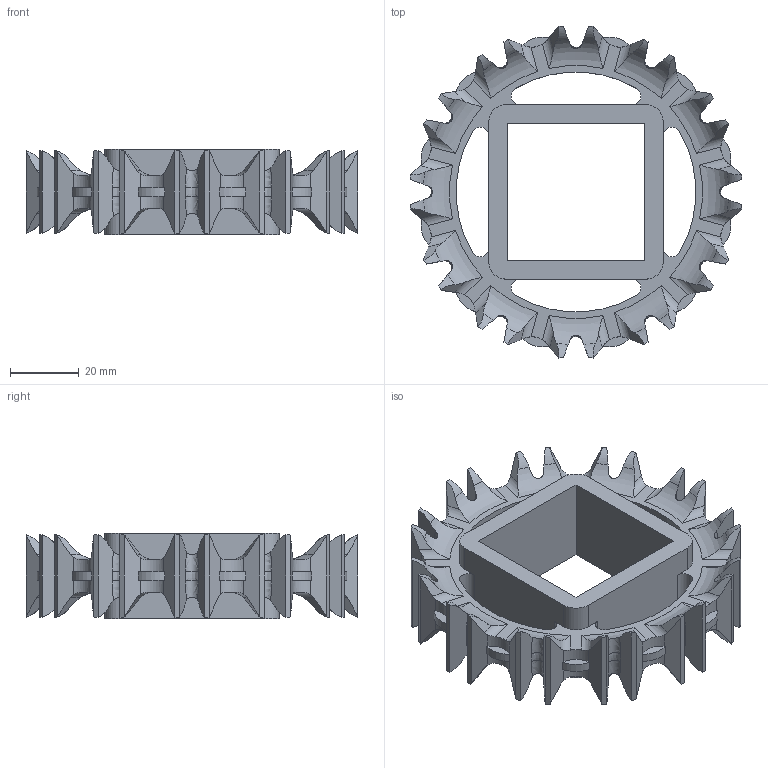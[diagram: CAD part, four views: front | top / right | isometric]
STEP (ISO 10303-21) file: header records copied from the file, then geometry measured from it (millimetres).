
FILE_DESCRIPTION((''),'2;1');
FILE_NAME('S1600_EZCLEAN_39X15_40_SQ','2008-12-12T',('jmumphre'),(''),'PRO/ENGINEER BY PARAMETRIC TECHNOLOGY CORPORATION, 2008150','PRO/ENGINEER BY PARAMETRIC TECHNOLOGY CORPORATION, 2008150','');
FILE_SCHEMA(('CONFIG_CONTROL_DESIGN'));
Length unit declared in the file: inch
Products named in the file (1): S1600_EZCLEAN_39X15_40_SQ
Bounding box: 96.62 x 96.62 x 24.89 mm (x, y, z)
Volume: 57318 mm3; surface area: 26070.8 mm2
Topology: 1 solids, 1 shells, 368 faces, 1116 edges, 744 vertices
Faces by surface type: plane 156, cylinder 104, torus 72, bspline 36
Entity records: 15100 total; most frequent: CARTESIAN_POINT 5924, ORIENTED_EDGE 2232, DIRECTION 1508, EDGE_CURVE 1116, VERTEX_POINT 744, AXIS2_PLACEMENT_3D 540, B_SPLINE_CURVE_WITH_KNOTS 480, VECTOR 428
